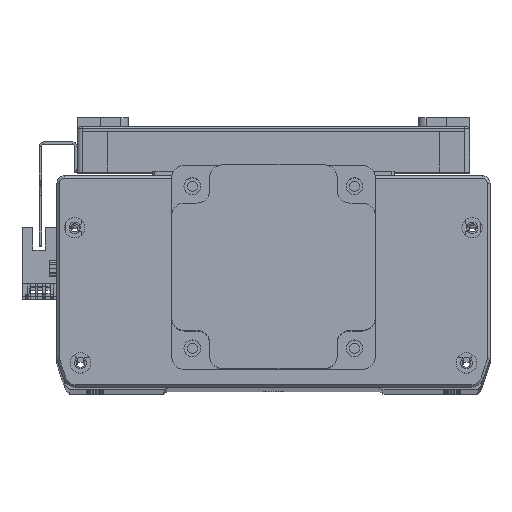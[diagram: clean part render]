
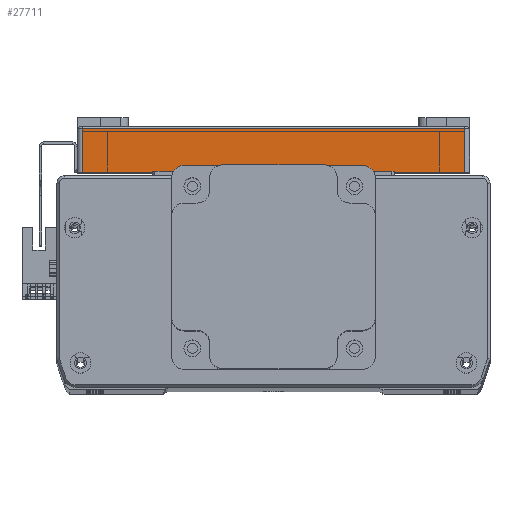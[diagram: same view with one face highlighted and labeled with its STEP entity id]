
A CAD part, top view. The second image highlights one B-rep face of the part: STEP entity #27711.
In plain terms, the highlighted planar face has unit normal (0, 0, 1) as drawn and (-1, 0, 0) by its records, which use the part's own axes.
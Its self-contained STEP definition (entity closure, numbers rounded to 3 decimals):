
#5674 = ORIENTED_EDGE ( 'NONE', *, *, #47535, .T. ) ;
#5684 = ORIENTED_EDGE ( 'NONE', *, *, #47547, .T. ) ;
#5702 = ORIENTED_EDGE ( 'NONE', *, *, #47473, .T. ) ;
#5709 = ORIENTED_EDGE ( 'NONE', *, *, #47452, .T. ) ;
#22189 = VERTEX_POINT ( 'NONE', #51353 ) ;
#22195 = VERTEX_POINT ( 'NONE', #51321 ) ;
#22229 = VERTEX_POINT ( 'NONE', #51408 ) ;
#22261 = VERTEX_POINT ( 'NONE', #51423 ) ;
#22430 = EDGE_LOOP ( 'NONE', ( #5709, #5674, #5684, #5702 ) ) ;
#23250 = DIRECTION ( 'NONE',  ( 0., 0., -1. ) ) ;
#23252 = CARTESIAN_POINT ( 'NONE',  ( -115., 17., -75. ) ) ;
#23258 = DIRECTION ( 'NONE',  ( 0., -1., 0. ) ) ;
#23277 = CARTESIAN_POINT ( 'NONE',  ( -115., 18., -75. ) ) ;
#24401 = VECTOR ( 'NONE', #37534, 1000. ) ;
#24402 = VECTOR ( 'NONE', #37466, 1000. ) ;
#24416 = LINE ( 'NONE', #37493, #24401 ) ;
#24476 = LINE ( 'NONE', #37456, #24402 ) ;
#24635 = LINE ( 'NONE', #23252, #24665 ) ;
#24637 = VECTOR ( 'NONE', #23258, 1000. ) ;
#24665 = VECTOR ( 'NONE', #23250, 1000. ) ;
#24720 = LINE ( 'NONE', #23277, #24637 ) ;
#27216 = FACE_OUTER_BOUND ( 'NONE', #22430, .T. ) ;
#27711 = ADVANCED_FACE ( 'NONE', ( #27216 ), #53535, .F. ) ;
#37456 = CARTESIAN_POINT ( 'NONE',  ( -115., 18., 75. ) ) ;
#37466 = DIRECTION ( 'NONE',  ( 0., 1., 0. ) ) ;
#37493 = CARTESIAN_POINT ( 'NONE',  ( -115., 0., -77. ) ) ;
#37534 = DIRECTION ( 'NONE',  ( 0., 0., 1. ) ) ;
#47452 = EDGE_CURVE ( 'NONE', #22195, #22229, #24476, .T. ) ;
#47473 = EDGE_CURVE ( 'NONE', #22189, #22195, #24416, .T. ) ;
#47535 = EDGE_CURVE ( 'NONE', #22229, #22261, #24635, .T. ) ;
#47547 = EDGE_CURVE ( 'NONE', #22261, #22189, #24720, .T. ) ;
#51321 = CARTESIAN_POINT ( 'NONE',  ( -115., 0., 75. ) ) ;
#51353 = CARTESIAN_POINT ( 'NONE',  ( -115., 0., -75. ) ) ;
#51408 = CARTESIAN_POINT ( 'NONE',  ( -115., 17., 75. ) ) ;
#51423 = CARTESIAN_POINT ( 'NONE',  ( -115., 17., -75. ) ) ;
#53535 = PLANE ( 'NONE',  #58316 ) ;
#53536 = CARTESIAN_POINT ( 'NONE',  ( -115., 18., -77. ) ) ;
#53552 = DIRECTION ( 'NONE',  ( 1., 0., 0. ) ) ;
#53562 = DIRECTION ( 'NONE',  ( 0., 0., -1. ) ) ;
#58316 = AXIS2_PLACEMENT_3D ( 'NONE', #53536, #53552, #53562 ) ;
